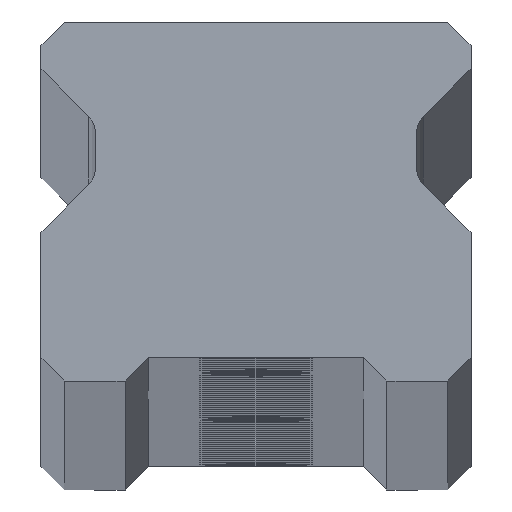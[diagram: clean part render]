
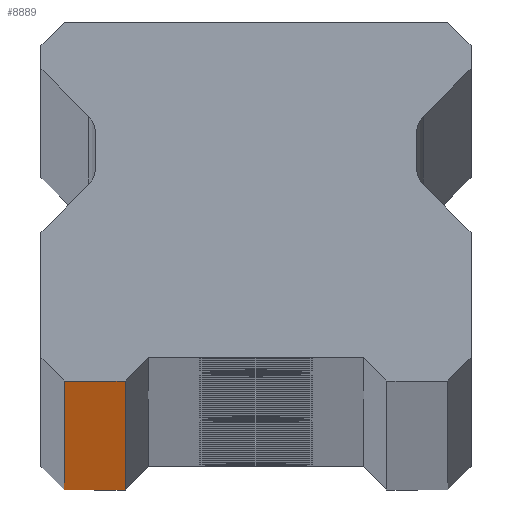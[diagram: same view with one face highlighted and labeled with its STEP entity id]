
A CAD part, top view. The second image highlights one B-rep face of the part: STEP entity #8889.
In plain terms, the highlighted planar face has unit normal (0, -1, 0).
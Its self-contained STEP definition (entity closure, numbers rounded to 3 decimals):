
#61 = VECTOR ( 'NONE', #1548, 1000. ) ;
#357 = VECTOR ( 'NONE', #1185, 1000. ) ;
#1079 = CARTESIAN_POINT ( 'NONE',  ( -10.25, 0., 1670. ) ) ;
#1185 = DIRECTION ( 'NONE',  ( 1., 0., 0. ) ) ;
#1452 = CARTESIAN_POINT ( 'NONE',  ( -7., 0., -1670. ) ) ;
#1548 = DIRECTION ( 'NONE',  ( 0., 0., 1. ) ) ;
#1672 = PLANE ( 'NONE',  #8832 ) ;
#1822 = LINE ( 'NONE', #7472, #10486 ) ;
#1884 = CARTESIAN_POINT ( 'NONE',  ( -7., 0., 1670. ) ) ;
#1971 = DIRECTION ( 'NONE',  ( 0., 0., -1. ) ) ;
#2080 = CARTESIAN_POINT ( 'NONE',  ( -10.25, 0., 1670. ) ) ;
#2340 = DIRECTION ( 'NONE',  ( 1., 0., 0. ) ) ;
#2801 = VERTEX_POINT ( 'NONE', #8806 ) ;
#3467 = EDGE_LOOP ( 'NONE', ( #8502, #3924, #10406, #6979 ) ) ;
#3924 = ORIENTED_EDGE ( 'NONE', *, *, #10048, .T. ) ;
#4294 = DIRECTION ( 'NONE',  ( 0., 1., 0. ) ) ;
#4487 = EDGE_CURVE ( 'NONE', #11002, #7953, #7921, .T. ) ;
#4784 = CARTESIAN_POINT ( 'NONE',  ( -7., 0., -1670. ) ) ;
#5355 = EDGE_CURVE ( 'NONE', #2801, #7058, #1822, .T. ) ;
#5567 = CARTESIAN_POINT ( 'NONE',  ( 11.5, 0., 1670. ) ) ;
#6124 = VECTOR ( 'NONE', #1971, 1000. ) ;
#6693 = LINE ( 'NONE', #2080, #6124 ) ;
#6979 = ORIENTED_EDGE ( 'NONE', *, *, #9877, .T. ) ;
#7058 = VERTEX_POINT ( 'NONE', #1452 ) ;
#7472 = CARTESIAN_POINT ( 'NONE',  ( 11.5, 0., -1670. ) ) ;
#7921 = LINE ( 'NONE', #5567, #357 ) ;
#7953 = VERTEX_POINT ( 'NONE', #1884 ) ;
#8423 = LINE ( 'NONE', #4784, #61 ) ;
#8502 = ORIENTED_EDGE ( 'NONE', *, *, #5355, .T. ) ;
#8647 = CARTESIAN_POINT ( 'NONE',  ( 11.5, 0., 1670. ) ) ;
#8806 = CARTESIAN_POINT ( 'NONE',  ( -10.25, 0., -1670. ) ) ;
#8832 = AXIS2_PLACEMENT_3D ( 'NONE', #8647, #4294, #9570 ) ;
#8889 = ADVANCED_FACE ( 'NONE', ( #10367 ), #1672, .F. ) ;
#9570 = DIRECTION ( 'NONE',  ( -1., 0., 0. ) ) ;
#9877 = EDGE_CURVE ( 'NONE', #11002, #2801, #6693, .T. ) ;
#10048 = EDGE_CURVE ( 'NONE', #7058, #7953, #8423, .T. ) ;
#10367 = FACE_OUTER_BOUND ( 'NONE', #3467, .T. ) ;
#10406 = ORIENTED_EDGE ( 'NONE', *, *, #4487, .F. ) ;
#10486 = VECTOR ( 'NONE', #2340, 1000. ) ;
#11002 = VERTEX_POINT ( 'NONE', #1079 ) ;
